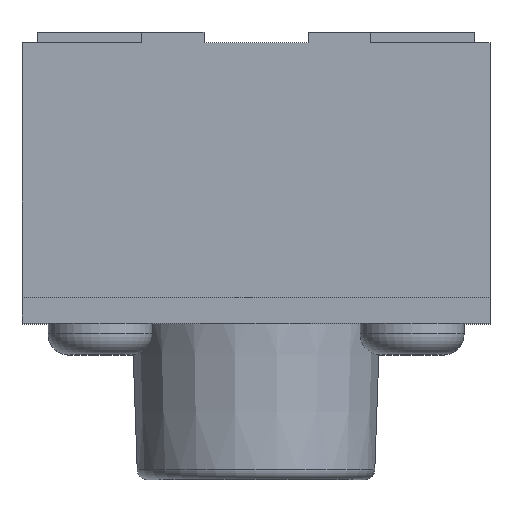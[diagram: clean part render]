
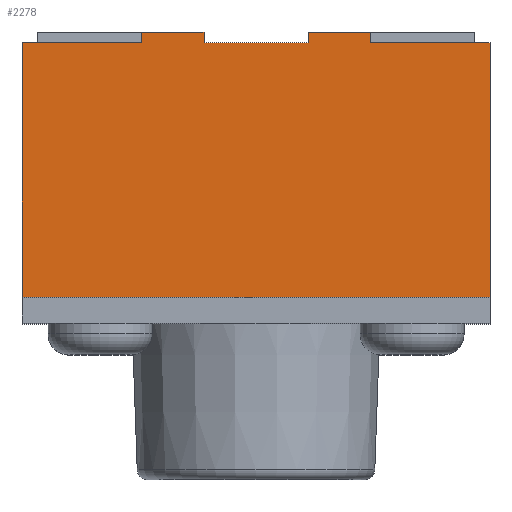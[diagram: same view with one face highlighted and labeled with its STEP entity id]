
A CAD part, top view. The second image highlights one B-rep face of the part: STEP entity #2278.
In plain terms, the highlighted planar face has unit normal (0, 0, 1).
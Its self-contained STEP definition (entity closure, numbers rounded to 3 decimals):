
#40=DIRECTION('',(1.,0.,0.));
#41=VECTOR('',#40,4.5);
#42=CARTESIAN_POINT('',(-2.25,0.,2.25));
#43=LINE('',#42,#41);
#610=DIRECTION('',(1.,0.,0.));
#611=VECTOR('',#610,0.6);
#612=CARTESIAN_POINT('',(-1.1,2.55,2.25));
#613=LINE('',#612,#611);
#750=DIRECTION('',(1.,0.,0.));
#751=VECTOR('',#750,0.6);
#752=CARTESIAN_POINT('',(0.5,2.55,2.25));
#753=LINE('',#752,#751);
#757=DIRECTION('',(1.,0.,0.));
#758=VECTOR('',#757,1.15);
#759=CARTESIAN_POINT('',(-2.25,2.45,2.25));
#760=LINE('',#759,#758);
#764=DIRECTION('',(0.,-1.,0.));
#765=VECTOR('',#764,0.1);
#766=CARTESIAN_POINT('',(-1.1,2.55,2.25));
#767=LINE('',#766,#765);
#771=DIRECTION('',(0.,-1.,0.));
#772=VECTOR('',#771,0.1);
#773=CARTESIAN_POINT('',(-0.5,2.55,2.25));
#774=LINE('',#773,#772);
#778=DIRECTION('',(1.,0.,0.));
#779=VECTOR('',#778,1.);
#780=CARTESIAN_POINT('',(-0.5,2.45,2.25));
#781=LINE('',#780,#779);
#785=DIRECTION('',(0.,-1.,0.));
#786=VECTOR('',#785,0.1);
#787=CARTESIAN_POINT('',(0.5,2.55,2.25));
#788=LINE('',#787,#786);
#792=DIRECTION('',(0.,-1.,0.));
#793=VECTOR('',#792,0.1);
#794=CARTESIAN_POINT('',(1.1,2.55,2.25));
#795=LINE('',#794,#793);
#799=DIRECTION('',(1.,0.,0.));
#800=VECTOR('',#799,1.15);
#801=CARTESIAN_POINT('',(1.1,2.45,2.25));
#802=LINE('',#801,#800);
#806=DIRECTION('',(0.,1.,0.));
#807=VECTOR('',#806,2.45);
#808=CARTESIAN_POINT('',(-2.25,0.,2.25));
#809=LINE('',#808,#807);
#925=DIRECTION('',(0.,1.,0.));
#926=VECTOR('',#925,2.45);
#927=CARTESIAN_POINT('',(2.25,0.,2.25));
#928=LINE('',#927,#926);
#1444=CARTESIAN_POINT('',(-2.25,0.,2.25));
#1445=VERTEX_POINT('',#1444);
#1446=CARTESIAN_POINT('',(2.25,0.,2.25));
#1447=VERTEX_POINT('',#1446);
#1590=CARTESIAN_POINT('',(-1.1,2.45,2.25));
#1591=VERTEX_POINT('',#1590);
#1593=CARTESIAN_POINT('',(-0.5,2.45,2.25));
#1595=VERTEX_POINT('',#1593);
#1596=CARTESIAN_POINT('',(0.5,2.45,2.25));
#1598=VERTEX_POINT('',#1596);
#1600=CARTESIAN_POINT('',(1.1,2.45,2.25));
#1601=VERTEX_POINT('',#1600);
#1638=CARTESIAN_POINT('',(-1.1,2.55,2.25));
#1639=VERTEX_POINT('',#1638);
#1640=CARTESIAN_POINT('',(-0.5,2.55,2.25));
#1642=VERTEX_POINT('',#1640);
#1644=CARTESIAN_POINT('',(0.5,2.55,2.25));
#1646=VERTEX_POINT('',#1644);
#1648=CARTESIAN_POINT('',(1.1,2.55,2.25));
#1649=VERTEX_POINT('',#1648);
#1656=CARTESIAN_POINT('',(-2.25,2.45,2.25));
#1657=VERTEX_POINT('',#1656);
#1658=CARTESIAN_POINT('',(2.25,2.45,2.25));
#1659=VERTEX_POINT('',#1658);
#2254=CARTESIAN_POINT('',(-2.25,0.,2.25));
#2255=DIRECTION('',(0.,0.,1.));
#2256=DIRECTION('',(1.,0.,0.));
#2257=AXIS2_PLACEMENT_3D('',#2254,#2255,#2256);
#2258=PLANE('',#2257);
#2259=ORIENTED_EDGE('',*,*,#2112,.T.);
#2261=ORIENTED_EDGE('',*,*,#2260,.F.);
#2262=ORIENTED_EDGE('',*,*,#2189,.T.);
#2263=ORIENTED_EDGE('',*,*,#2247,.T.);
#2264=ORIENTED_EDGE('',*,*,#2130,.T.);
#2266=ORIENTED_EDGE('',*,*,#2265,.F.);
#2267=ORIENTED_EDGE('',*,*,#2236,.T.);
#2269=ORIENTED_EDGE('',*,*,#2268,.T.);
#2270=ORIENTED_EDGE('',*,*,#2161,.T.);
#2272=ORIENTED_EDGE('',*,*,#2271,.F.);
#2273=ORIENTED_EDGE('',*,*,#1701,.F.);
#2275=ORIENTED_EDGE('',*,*,#2274,.T.);
#2276=EDGE_LOOP('',(#2259,#2261,#2262,#2263,#2264,#2266,#2267,#2269,#2270,#2272,
#2273,#2275));
#2277=FACE_OUTER_BOUND('',#2276,.F.);
#1701=EDGE_CURVE('',#1445,#1447,#43,.T.);
#2112=EDGE_CURVE('',#1657,#1591,#760,.T.);
#2130=EDGE_CURVE('',#1595,#1598,#781,.T.);
#2161=EDGE_CURVE('',#1601,#1659,#802,.T.);
#2189=EDGE_CURVE('',#1639,#1642,#613,.T.);
#2236=EDGE_CURVE('',#1646,#1649,#753,.T.);
#2247=EDGE_CURVE('',#1642,#1595,#774,.T.);
#2260=EDGE_CURVE('',#1639,#1591,#767,.T.);
#2265=EDGE_CURVE('',#1646,#1598,#788,.T.);
#2268=EDGE_CURVE('',#1649,#1601,#795,.T.);
#2271=EDGE_CURVE('',#1447,#1659,#928,.T.);
#2274=EDGE_CURVE('',#1445,#1657,#809,.T.);
#2278=ADVANCED_FACE('',(#2277),#2258,.T.);
